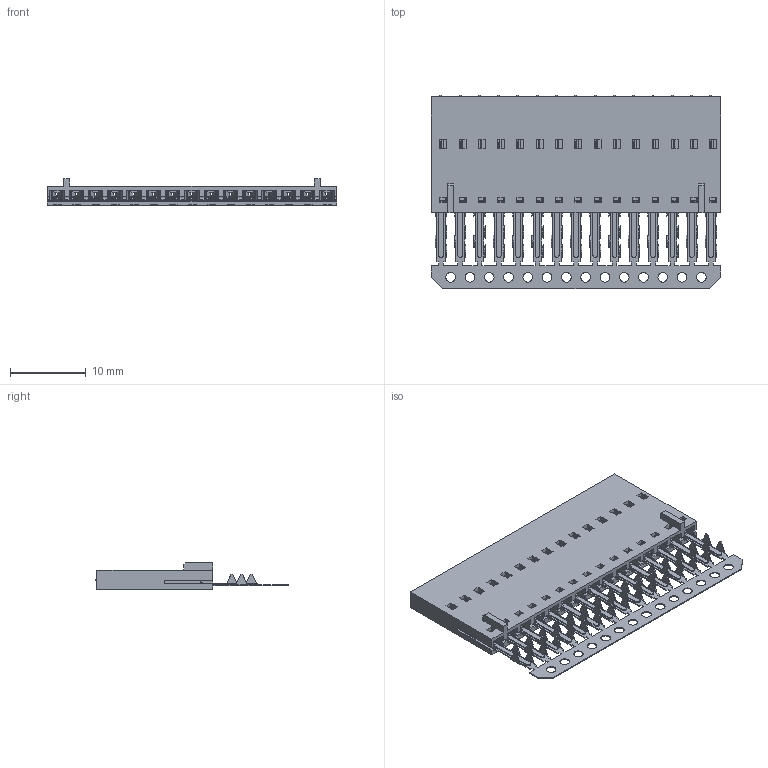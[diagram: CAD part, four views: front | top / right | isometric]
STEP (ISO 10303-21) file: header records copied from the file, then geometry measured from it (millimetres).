
FILE_DESCRIPTION((''),'2;1');
FILE_NAME('015389152','2016-10-12T',('rlalsangi'),(''),'PRO/ENGINEER BY PARAMETRIC TECHNOLOGY CORPORATION, 2012310','PRO/ENGINEER BY PARAMETRIC TECHNOLOGY CORPORATION, 2012310','');
FILE_SCHEMA(('CONFIG_CONTROL_DESIGN'));
Length unit declared in the file: inch
Products named in the file (1): 015389152
Bounding box: 38.07 x 25.5 x 3.53 mm (x, y, z)
Volume: 923.5 mm3; surface area: 4578.5 mm2
Topology: 1 solids, 1 shells, 1972 faces, 5411 edges, 3427 vertices
Faces by surface type: plane 1703, cylinder 194, bspline 75
Entity records: 62990 total; most frequent: CARTESIAN_POINT 13106, ORIENTED_EDGE 10788, DIRECTION 9357, EDGE_CURVE 5394, VECTOR 4963, LINE 4963, VERTEX_POINT 3396, AXIS2_PLACEMENT_3D 2197
